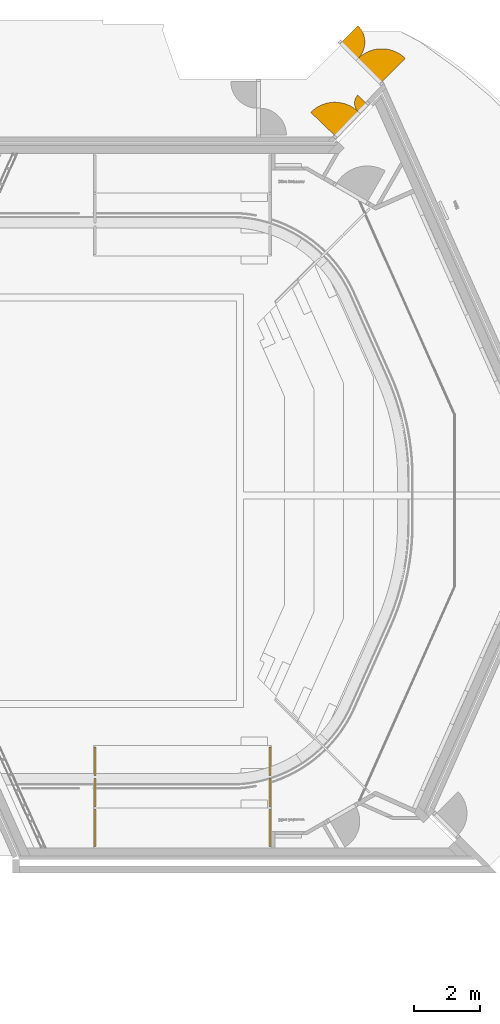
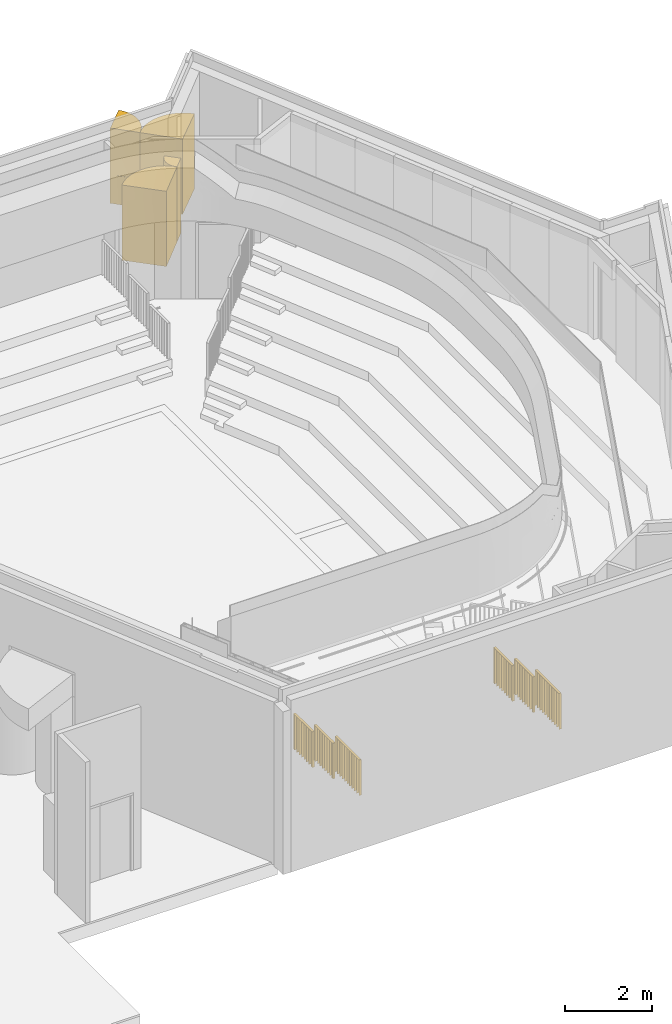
# One storey, part 14 of 19: 6 railings, 4 doors, 2 elements without a shape of their own.
"""IFC2X3 building model written with IfcOpenShell, lengths in millimetres."""

from ifc_helpers import new_model, entity, si_unit, converted_unit, derived_unit, direction, frame, frame_2d, origin, origin_2d_with_axis, place, context, subcontext, project, spatial, polyline, circle_curve, parameter, trimmed, segment, composite_curve, rectangle, outline, extrude, source, transform, mapped, material, material_list, type_object, type_shapes, element, aggregate, save


model = new_model("IFC2X3")

# Units and contexts
model_context = context("Model", 3, precision=0.01, world=origin(), true_north=direction((6.123031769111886e-17, 1.0)))
body_context = subcontext(model_context, "Body", "Model", "MODEL_VIEW")
ifc_project = project(units=[si_unit("LENGTHUNIT", "METRE", prefix="MILLI"), si_unit("AREAUNIT", "SQUARE_METRE"), si_unit("VOLUMEUNIT", "CUBIC_METRE"), converted_unit("PLANEANGLEUNIT", "DEGREE", entity("IfcRatioMeasure", 0.017453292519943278), si_unit("PLANEANGLEUNIT", "RADIAN"), dimensions=[0, 0, 0, 0, 0, 0, 0]), si_unit("MASSUNIT", "GRAM", prefix="KILO"), derived_unit("MASSDENSITYUNIT", [(si_unit("MASSUNIT", "GRAM", prefix="KILO"), 1), (si_unit("LENGTHUNIT", "METRE"), -3)]), derived_unit("MOMENTOFINERTIAUNIT", [(si_unit("LENGTHUNIT", "METRE"), 4)]), si_unit("TIMEUNIT", "SECOND"), si_unit("FREQUENCYUNIT", "HERTZ"), si_unit("THERMODYNAMICTEMPERATUREUNIT", "DEGREE_CELSIUS"), derived_unit("THERMALTRANSMITTANCEUNIT", [(si_unit("MASSUNIT", "GRAM", prefix="KILO"), 1), (si_unit("THERMODYNAMICTEMPERATUREUNIT", "KELVIN"), -1), (si_unit("TIMEUNIT", "SECOND"), -3)]), derived_unit("VOLUMETRICFLOWRATEUNIT", [(si_unit("LENGTHUNIT", "METRE"), 3), (si_unit("TIMEUNIT", "SECOND"), -1)]), derived_unit("MASSFLOWRATEUNIT", [(si_unit("MASSUNIT", "GRAM", prefix="KILO"), 1), (si_unit("TIMEUNIT", "SECOND"), -1)]), derived_unit("ROTATIONALFREQUENCYUNIT", [(si_unit("TIMEUNIT", "SECOND"), -1)]), si_unit("ELECTRICCURRENTUNIT", "AMPERE"), si_unit("ELECTRICVOLTAGEUNIT", "VOLT"), si_unit("POWERUNIT", "WATT"), si_unit("FORCEUNIT", "NEWTON", prefix="KILO"), si_unit("ILLUMINANCEUNIT", "LUX"), si_unit("LUMINOUSFLUXUNIT", "LUMEN"), si_unit("LUMINOUSINTENSITYUNIT", "CANDELA"), derived_unit("USERDEFINED", [(si_unit("MASSUNIT", "GRAM", prefix="KILO"), -1), (si_unit("LENGTHUNIT", "METRE"), -2), (si_unit("TIMEUNIT", "SECOND"), 3), (si_unit("LUMINOUSFLUXUNIT", "LUMEN"), 1)]), derived_unit("SOUNDPOWERUNIT", [(si_unit("MASSUNIT", "GRAM", prefix="KILO"), 1), (si_unit("LENGTHUNIT", "METRE"), 2), (si_unit("TIMEUNIT", "SECOND"), -3)]), derived_unit("SOUNDPRESSUREUNIT", [(si_unit("MASSUNIT", "GRAM", prefix="KILO"), 1), (si_unit("LENGTHUNIT", "METRE"), -1), (si_unit("TIMEUNIT", "SECOND"), -2)]), derived_unit("LINEARVELOCITYUNIT", [(si_unit("LENGTHUNIT", "METRE"), 1), (si_unit("TIMEUNIT", "SECOND"), -1)]), si_unit("PRESSUREUNIT", "PASCAL"), derived_unit("USERDEFINED", [(si_unit("LENGTHUNIT", "METRE"), -2), (si_unit("MASSUNIT", "GRAM", prefix="KILO"), 1), (si_unit("TIMEUNIT", "SECOND"), -2)]), derived_unit("LINEARFORCEUNIT", [(si_unit("MASSUNIT", "GRAM", prefix="KILO"), 1), (si_unit("LENGTHUNIT", "METRE"), 1), (si_unit("TIMEUNIT", "SECOND"), -2), (si_unit("LENGTHUNIT", "METRE"), -1)]), derived_unit("PLANARFORCEUNIT", [(si_unit("MASSUNIT", "GRAM", prefix="KILO"), 1), (si_unit("LENGTHUNIT", "METRE"), 1), (si_unit("TIMEUNIT", "SECOND"), -2), (si_unit("LENGTHUNIT", "METRE"), -2)])], contexts=[model_context])

# Site, building, storey
site_placement = place(None, frame((-10000.0, -10000.0, 0.0)))
site = spatial("IfcSite", under=ifc_project, at=site_placement, Name="Default", CompositionType="ELEMENT")
building_placement = place(site_placement, origin())
building = spatial("IfcBuilding", under=site, at=building_placement, CompositionType="ELEMENT")
storey_placement = place(building_placement, frame((0.0, 0.0, 4200.0)))
storey = spatial("IfcBuildingStorey", under=building, at=storey_placement, Name="01 1e verdieping", CompositionType="ELEMENT", Elevation=4200.000000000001)

# Curtain wall, doors
curtain_wall_type = type_object("IfcCurtainWallType", Name="Curtain Wall:NLRS_32_CWA_houten binnenkozijnen ts90_ags", PredefinedType="NOTDEFINED")
curtain_wall_1_placement = place(storey_placement, frame((0.0, 0.0, -4200.0)))
curtain_wall_1 = element("IfcCurtainWall", 1, at=curtain_wall_1_placement, inside=storey, type_object=curtain_wall_type, Name="Curtain Wall:NLRS_32_CWA_houten binnenkozijnen ts90_ags", ObjectType="Curtain Wall:NLRS_32_CWA_houten binnenkozijnen ts90_ags")
ifc_material_1 = material(Name="NLRS_a_clashvolume")
ifc_material_2 = material(Name="<Unnamed>")
ifc_material_list_1 = material_list([ifc_material_1, ifc_material_2])
ifc_material_list_2 = material_list([ifc_material_1, ifc_material_2])
door_style_1 = type_object("IfcDoorStyle", Name="NLRS_31_DO_houten deur_ags:deur dicht", ConstructionType="NOTDEFINED", OperationType="NOTDEFINED", ParameterTakesPrecedence=False, Sizeable=False, material=ifc_material_list_2)
shared_shape_1 = source(origin(), body_context, "Body", "SweptSolid", [
    extrude(outline(composite_curve([segment(polyline([(-675.3333333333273, -337.6666666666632), (337.6666666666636, -337.6666666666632)]), True, "CONTINUOUS"), segment(polyline([(337.6666666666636, -337.66666666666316), (337.6666666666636, 675.3333333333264)]), True, "CONTINUOUS"), segment(trimmed(circle_curve(frame_2d((337.6666666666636, -337.6666666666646), x_axis=(0.0, 1.0)), 1012.9999999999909), [parameter(0.0)], [parameter(89.99999999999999)], True, "PARAMETER"), True, "CONTINUOUS")], self_intersect=False)), frame((168.8333333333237, -370.1666666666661, 0.0), z_axis=(0.0, 0.0, 1.0), x_axis=(0.0, 1.0, 0.0)), (0.0, 0.0, 1.0), 2103.0),
    extrude(rectangle(XDim=1012.9999999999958, YDim=40.00000000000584, at=frame_2d((0.0, -1.7763568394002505e-15), x_axis=(1.0, 0.0))), frame((0.0, -12.499999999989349, 0.0)), (0.0, 0.0, 1.0), 2103.0),
])
type_shapes(door_style_1, [shared_shape_1])
door_1_placement = place(curtain_wall_1_placement, frame((39001.657990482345, 50038.5029729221, 4200.0), z_axis=(0.0, 0.0, 1.0), x_axis=(-0.6943722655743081, -0.7196159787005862, 0.0)))
door_1 = element("IfcDoor", 2, at=door_1_placement, type_object=door_style_1, material=ifc_material_list_1, Name="NLRS_31_DO_houten deur_ags:deur dicht", ObjectType="NLRS_31_DO_houten deur_ags:deur dicht", OverallHeight=2103.0000000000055, OverallWidth=1013.0000000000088, context=body_context, shape_type="MappedRepresentation", body=[
    mapped(shared_shape_1, transform((0.0, 0.0, 0.0), scale=1.0)),
])
ifc_material_list_3 = material_list([ifc_material_1, ifc_material_2])
ifc_material_list_4 = material_list([ifc_material_1, ifc_material_2])
door_style_2 = type_object("IfcDoorStyle", Name="NLRS_31_DO_houten deur_ags:deur dicht", ConstructionType="NOTDEFINED", OperationType="NOTDEFINED", ParameterTakesPrecedence=False, Sizeable=False, material=ifc_material_list_4)
shared_shape_2 = source(origin(), body_context, "Body", "SweptSolid", [
    extrude(outline(composite_curve([segment(trimmed(circle_curve(frame_2d((-117.5870046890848, 117.58700468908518), x_axis=(1.0, 0.0)), 352.76101406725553), [parameter(270.0)], [parameter(0.0)], True, "PARAMETER"), True, "CONTINUOUS"), segment(polyline([(235.17400937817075, 117.58700468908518), (-117.58700468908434, 117.58700468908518)]), True, "CONTINUOUS"), segment(polyline([(-117.58700468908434, 117.58700468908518), (-117.58700468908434, -235.17400937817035)]), True, "CONTINUOUS")], self_intersect=False)), frame((-58.79350234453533, -150.08700468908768, 0.0)), (0.0, 0.0, 1.0), 2103.0),
    extrude(rectangle(XDim=40.00000000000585, YDim=352.7610140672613, at=origin_2d_with_axis()), frame((0.0, -12.499999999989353, 0.0), z_axis=(0.0, 0.0, 1.0), x_axis=(0.0, 1.0, 0.0)), (0.0, 0.0, 1.0), 2103.0),
])
type_shapes(door_style_2, [shared_shape_2])
door_2_placement = place(curtain_wall_1_placement, frame((39475.83127526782, 50529.914697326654, 4200.0), z_axis=(0.0, 0.0, 1.0), x_axis=(-0.6943722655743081, -0.7196159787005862, 0.0)))
door_2 = element("IfcDoor", 3, at=door_2_placement, type_object=door_style_2, material=ifc_material_list_3, Name="NLRS_31_DO_houten deur_ags:deur dicht", ObjectType="NLRS_31_DO_houten deur_ags:deur dicht", OverallHeight=2103.000000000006, OverallWidth=352.7610140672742, context=body_context, shape_type="MappedRepresentation", body=[
    mapped(shared_shape_2, transform((0.0, 0.0, 0.0), scale=1.0)),
])
aggregate(curtain_wall_1, [door_1, door_2])

curtain_wall_2_placement = place(storey_placement, frame((0.0, 0.0, -4200.0)))
curtain_wall_2 = element("IfcCurtainWall", 4, at=curtain_wall_2_placement, inside=storey, type_object=curtain_wall_type, Name="Curtain Wall:NLRS_32_CWA_houten binnenkozijnen ts90_ags", ObjectType="Curtain Wall:NLRS_32_CWA_houten binnenkozijnen ts90_ags")
ifc_material_3 = material(Name="Glas")
ifc_material_list_5 = material_list([ifc_material_1, ifc_material_3, ifc_material_2])
ifc_material_list_6 = material_list([ifc_material_1, ifc_material_3, ifc_material_2])
door_style_3 = type_object("IfcDoorStyle", Name="NLRS_31_DO_houten deur_ags:deur met maximaal glas", ConstructionType="NOTDEFINED", OperationType="NOTDEFINED", ParameterTakesPrecedence=False, Sizeable=False, material=ifc_material_list_6)
shared_shape_3 = source(origin(), body_context, "Body", "SweptSolid", [
    extrude(outline(composite_curve([segment(polyline([(-468.66666666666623, -234.33333333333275), (234.3333333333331, -234.33333333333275)]), True, "CONTINUOUS"), segment(polyline([(234.3333333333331, -234.3333333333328), (234.3333333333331, 468.6666666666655)]), True, "CONTINUOUS"), segment(trimmed(circle_curve(frame_2d((234.3333333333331, -234.33333333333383), x_axis=(0.0, 1.0)), 702.9999999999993), [parameter(0.0)], [parameter(89.99999999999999)], True, "PARAMETER"), True, "CONTINUOUS")], self_intersect=False)), frame((117.1666666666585, -266.8333333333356, 0.0), z_axis=(0.0, 0.0, 1.0), x_axis=(0.0, 1.0, 0.0)), (0.0, 0.0, 1.0), 2103.0),
    extrude(rectangle(XDim=423.00000000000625, YDim=24.99999999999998, at=origin_2d_with_axis()), frame((0.0, -12.499999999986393, 800.0)), (0.0, 0.0, 1.0), 1163.0),
    extrude(outline(polyline([(-351.50000000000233, -1051.5), (351.50000000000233, -1051.5), (351.50000000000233, 1051.5), (-351.50000000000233, 1051.5), (-351.50000000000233, -1051.5)]), holes=[polyline([(-211.50000000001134, -911.4999999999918), (-211.50000000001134, 251.50000000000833), (211.49999999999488, 251.50000000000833), (211.49999999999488, -911.4999999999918), (-211.50000000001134, -911.4999999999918)])]), frame((0.0, 7.500000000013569, 1051.5), z_axis=(0.0, -1.0, 0.0), x_axis=(-1.0, 0.0, 0.0)), (0.0, 0.0, 1.0), 40.00000000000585),
])
type_shapes(door_style_3, [shared_shape_3])
door_3_placement = place(curtain_wall_2_placement, frame((39058.17540072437, 52257.95623616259, 4200.0), z_axis=(0.0, 0.0, 1.0), x_axis=(-0.7071067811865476, 0.7071067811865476, 0.0)))
door_3 = element("IfcDoor", 5, at=door_3_placement, type_object=door_style_3, material=ifc_material_list_5, Name="NLRS_31_DO_houten deur_ags:deur met maximaal glas", ObjectType="NLRS_31_DO_houten deur_ags:deur met maximaal glas", OverallHeight=2103.000000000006, OverallWidth=703.0000000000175, context=body_context, shape_type="MappedRepresentation", body=[
    mapped(shared_shape_3, transform((0.0, 0.0, 0.0), scale=1.0)),
])
ifc_material_list_7 = material_list([ifc_material_1, ifc_material_3, ifc_material_2])
ifc_material_list_8 = material_list([ifc_material_1, ifc_material_3, ifc_material_2])
door_style_4 = type_object("IfcDoorStyle", Name="NLRS_31_DO_houten deur_ags:deur met maximaal glas", ConstructionType="NOTDEFINED", OperationType="NOTDEFINED", ParameterTakesPrecedence=False, Sizeable=False, material=ifc_material_list_8)
shared_shape_4 = source(origin(), body_context, "Body", "SweptSolid", [
    extrude(outline(composite_curve([segment(trimmed(circle_curve(frame_2d((-337.6666666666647, 337.6666666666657), x_axis=(1.0, 0.0)), 1012.9999999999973), [parameter(270.0)], [parameter(0.0)], True, "PARAMETER"), True, "CONTINUOUS"), segment(polyline([(675.3333333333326, 337.6666666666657), (-337.6666666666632, 337.6666666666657)]), True, "CONTINUOUS"), segment(polyline([(-337.6666666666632, 337.6666666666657), (-337.6666666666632, -675.3333333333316)]), True, "CONTINUOUS")], self_intersect=False)), frame((-168.83333333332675, -370.1666666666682, 0.0)), (0.0, 0.0, 1.0), 2103.0),
    extrude(rectangle(XDim=24.99999999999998, YDim=733.0000000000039, at=frame_2d((8.881784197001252e-16, -2.842170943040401e-14), x_axis=(1.0, 0.0))), frame((0.0, -12.499999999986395, 800.0), z_axis=(0.0, 0.0, 1.0), x_axis=(0.0, 1.0, 0.0)), (0.0, 0.0, 1.0), 1163.0),
    extrude(outline(polyline([(-506.5000000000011, -1051.5), (506.5000000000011, -1051.5), (506.5000000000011, 1051.5), (-506.5000000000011, 1051.5), (-506.5000000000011, -1051.5)]), holes=[polyline([(-366.5000000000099, 251.50000000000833), (366.49999999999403, 251.50000000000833), (366.49999999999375, -911.4999999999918), (-366.50000000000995, -911.4999999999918), (-366.5000000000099, 251.50000000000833)])]), frame((0.0, -32.499999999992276, 1051.5), z_axis=(0.0, 1.0, 0.0), x_axis=(1.0, 0.0, 0.0)), (0.0, 0.0, 1.0), 40.00000000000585),
])
type_shapes(door_style_4, [shared_shape_4])
door_4_placement = place(curtain_wall_2_placement, frame((39664.87301898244, 51651.25861790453, 4200.0), z_axis=(0.0, 0.0, 1.0), x_axis=(-0.7071067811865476, 0.7071067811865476, 0.0)))
door_4 = element("IfcDoor", 6, at=door_4_placement, type_object=door_style_4, material=ifc_material_list_7, Name="NLRS_31_DO_houten deur_ags:deur met maximaal glas", ObjectType="NLRS_31_DO_houten deur_ags:deur met maximaal glas", OverallHeight=2103.000000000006, OverallWidth=1013.000000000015, context=body_context, shape_type="MappedRepresentation", body=[
    mapped(shared_shape_4, transform((0.0, 0.0, 0.0), scale=1.0)),
])
aggregate(curtain_wall_2, [door_3, door_4])

# Railings
ifc_material_4 = material(Name="Default Metal")
ifc_material_list_9 = material_list([ifc_material_4, ifc_material_4, ifc_material_4, ifc_material_4, ifc_material_4, ifc_material_4, ifc_material_4, ifc_material_4, ifc_material_4, ifc_material_4, ifc_material_4])
railing_1_placement = place(storey_placement, origin())
element("IfcRailing", 7, at=railing_1_placement, inside=storey, material=ifc_material_list_9, Name="Railing:NLRS_34_RAI_spijlenhekwerk hoofdtribune", ObjectType="Railing:NLRS_34_RAI_spijlenhekwerk hoofdtribune", PredefinedType="NOTDEFINED", context=body_context, shape_type="SweptSolid", body=[
    extrude(rectangle(XDim=10.000000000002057, YDim=59.99999999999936, at=origin_2d_with_axis()), frame((36655.0, 30365.0, 285.0), z_axis=(0.0, 0.0, 1.0), x_axis=(0.0, -1.0, 0.0)), (0.0, 0.0, 1.0), 989.9999999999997),
    extrude(rectangle(XDim=10.000000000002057, YDim=59.99999999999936, at=origin_2d_with_axis()), frame((36655.0, 30475.0, 285.0), z_axis=(0.0, 0.0, 1.0), x_axis=(0.0, -1.0, 0.0)), (0.0, 0.0, 1.0), 989.9999999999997),
    extrude(rectangle(XDim=10.000000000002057, YDim=59.99999999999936, at=origin_2d_with_axis()), frame((36655.0, 30585.0, 285.0), z_axis=(0.0, 0.0, 1.0), x_axis=(0.0, -1.0, 0.0)), (0.0, 0.0, 1.0), 989.9999999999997),
    extrude(rectangle(XDim=10.000000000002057, YDim=59.99999999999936, at=origin_2d_with_axis()), frame((36655.0, 30695.0, 285.0), z_axis=(0.0, 0.0, 1.0), x_axis=(0.0, -1.0, 0.0)), (0.0, 0.0, 1.0), 989.9999999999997),
    extrude(rectangle(XDim=10.000000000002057, YDim=59.99999999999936, at=origin_2d_with_axis()), frame((36655.0, 30805.0, 285.0), z_axis=(0.0, 0.0, 1.0), x_axis=(0.0, -1.0, 0.0)), (0.0, 0.0, 1.0), 989.9999999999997),
    extrude(rectangle(XDim=10.000000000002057, YDim=59.99999999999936, at=origin_2d_with_axis()), frame((36655.0, 30915.0, 285.0), z_axis=(0.0, 0.0, 1.0), x_axis=(0.0, -1.0, 0.0)), (0.0, 0.0, 1.0), 989.9999999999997),
    extrude(rectangle(XDim=10.000000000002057, YDim=59.99999999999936, at=origin_2d_with_axis()), frame((36655.0, 31025.0, 285.0), z_axis=(0.0, 0.0, 1.0), x_axis=(0.0, -1.0, 0.0)), (0.0, 0.0, 1.0), 989.9999999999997),
    extrude(rectangle(XDim=10.000000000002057, YDim=59.99999999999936, at=origin_2d_with_axis()), frame((36655.0, 31135.0, 285.0), z_axis=(0.0, 0.0, 1.0), x_axis=(0.0, -1.0, 0.0)), (0.0, 0.0, 1.0), 989.9999999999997),
    extrude(rectangle(XDim=10.000000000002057, YDim=59.99999999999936, at=origin_2d_with_axis()), frame((36655.0, 30325.0, 285.0), z_axis=(0.0, 0.0, 1.0), x_axis=(0.0, -1.0, 0.0)), (0.0, 0.0, 1.0), 989.9999999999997),
    extrude(rectangle(XDim=10.000000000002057, YDim=59.99999999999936, at=origin_2d_with_axis()), frame((36655.0, 31175.0, 285.0), z_axis=(0.0, 0.0, 1.0), x_axis=(0.0, -1.0, 0.0)), (0.0, 0.0, 1.0), 989.9999999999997),
    extrude(rectangle(XDim=849.9999999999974, YDim=59.99999999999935, at=origin_2d_with_axis()), frame((36655.0, 30750.0, 1275.0), z_axis=(0.0, 0.0, 1.0), x_axis=(0.0, -1.0, 0.0)), (0.0, 0.0, 1.0), 9.999999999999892),
])
ifc_material_list_10 = material_list([ifc_material_4, ifc_material_4, ifc_material_4, ifc_material_4, ifc_material_4, ifc_material_4, ifc_material_4, ifc_material_4, ifc_material_4, ifc_material_4, ifc_material_4])
railing_2_placement = place(storey_placement, origin())
element("IfcRailing", 8, at=railing_2_placement, inside=storey, material=ifc_material_list_10, Name="Railing:NLRS_34_RAI_spijlenhekwerk hoofdtribune", ObjectType="Railing:NLRS_34_RAI_spijlenhekwerk hoofdtribune", PredefinedType="NOTDEFINED", context=body_context, shape_type="SweptSolid", body=[
    extrude(rectangle(XDim=60.00000000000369, YDim=9.999999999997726, at=origin_2d_with_axis()), frame((36655.0, 30185.0, 545.0)), (0.0, 0.0, 1.0), 989.9999999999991),
    extrude(rectangle(XDim=60.00000000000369, YDim=9.999999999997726, at=origin_2d_with_axis()), frame((36655.0, 30075.0, 545.0)), (0.0, 0.0, 1.0), 989.9999999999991),
    extrude(rectangle(XDim=60.00000000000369, YDim=9.999999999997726, at=frame_2d((0.0, 4.331646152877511e-12), x_axis=(1.0, 0.0))), frame((36655.0, 29965.0, 545.0)), (0.0, 0.0, 1.0), 989.9999999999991),
    extrude(rectangle(XDim=60.00000000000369, YDim=9.999999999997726, at=origin_2d_with_axis()), frame((36655.0, 29855.0, 545.0)), (0.0, 0.0, 1.0), 989.9999999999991),
    extrude(rectangle(XDim=60.00000000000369, YDim=9.999999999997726, at=frame_2d((0.0, 4.331646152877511e-12), x_axis=(1.0, 0.0))), frame((36655.0, 29745.0, 545.0)), (0.0, 0.0, 1.0), 989.9999999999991),
    extrude(rectangle(XDim=60.00000000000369, YDim=9.999999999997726, at=origin_2d_with_axis()), frame((36655.0, 29635.0, 545.0)), (0.0, 0.0, 1.0), 989.9999999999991),
    extrude(rectangle(XDim=60.00000000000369, YDim=9.999999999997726, at=frame_2d((0.0, -4.331646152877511e-12), x_axis=(1.0, 0.0))), frame((36655.0, 29525.0, 545.0)), (0.0, 0.0, 1.0), 989.9999999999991),
    extrude(rectangle(XDim=60.00000000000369, YDim=9.999999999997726, at=origin_2d_with_axis()), frame((36655.0, 29415.0, 545.0)), (0.0, 0.0, 1.0), 989.9999999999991),
    extrude(rectangle(XDim=60.00000000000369, YDim=9.999999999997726, at=origin_2d_with_axis()), frame((36655.0, 30225.0, 545.0)), (0.0, 0.0, 1.0), 989.9999999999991),
    extrude(rectangle(XDim=60.00000000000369, YDim=9.999999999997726, at=frame_2d((0.0, -4.331646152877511e-12), x_axis=(1.0, 0.0))), frame((36655.0, 29375.0, 545.0)), (0.0, 0.0, 1.0), 989.9999999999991),
    extrude(rectangle(XDim=849.9999999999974, YDim=59.99999999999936, at=frame_2d((0.0, 2.1653789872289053e-12), x_axis=(1.0, 0.0))), frame((36655.0, 29800.0, 1535.0), z_axis=(0.0, 0.0, 1.0), x_axis=(0.0, 1.0, 0.0)), (0.0, 0.0, 1.0), 9.999999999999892),
])
ifc_material_list_11 = material_list([ifc_material_4, ifc_material_4, ifc_material_4, ifc_material_4, ifc_material_4, ifc_material_4, ifc_material_4, ifc_material_4, ifc_material_4, ifc_material_4, ifc_material_4])
railing_3_placement = place(storey_placement, origin())
element("IfcRailing", 9, at=railing_3_placement, inside=storey, material=ifc_material_list_11, Name="Railing:NLRS_34_RAI_spijlenhekwerk hoofdtribune", ObjectType="Railing:NLRS_34_RAI_spijlenhekwerk hoofdtribune", PredefinedType="NOTDEFINED", context=body_context, shape_type="SweptSolid", body=[
    extrude(rectangle(XDim=60.00000000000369, YDim=9.999999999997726, at=frame_2d((0.0, 4.331646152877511e-12), x_axis=(1.0, 0.0))), frame((31365.0, 30365.0, 285.0), z_axis=(0.0, 0.0, 1.0), x_axis=(-1.0, 0.0, 0.0)), (0.0, 0.0, 1.0), 989.9999999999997),
    extrude(rectangle(XDim=60.00000000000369, YDim=9.999999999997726, at=origin_2d_with_axis()), frame((31365.0, 30475.0, 285.0), z_axis=(0.0, 0.0, 1.0), x_axis=(-1.0, 0.0, 0.0)), (0.0, 0.0, 1.0), 989.9999999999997),
    extrude(rectangle(XDim=60.00000000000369, YDim=9.999999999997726, at=origin_2d_with_axis()), frame((31365.0, 30585.0, 285.0), z_axis=(0.0, 0.0, 1.0), x_axis=(-1.0, 0.0, 0.0)), (0.0, 0.0, 1.0), 989.9999999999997),
    extrude(rectangle(XDim=60.00000000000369, YDim=9.999999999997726, at=origin_2d_with_axis()), frame((31365.0, 30695.0, 285.0), z_axis=(0.0, 0.0, 1.0), x_axis=(-1.0, 0.0, 0.0)), (0.0, 0.0, 1.0), 989.9999999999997),
    extrude(rectangle(XDim=60.00000000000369, YDim=9.999999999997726, at=frame_2d((0.0, -4.331646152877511e-12), x_axis=(1.0, 0.0))), frame((31365.0, 30805.0, 285.0), z_axis=(0.0, 0.0, 1.0), x_axis=(-1.0, 0.0, 0.0)), (0.0, 0.0, 1.0), 989.9999999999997),
    extrude(rectangle(XDim=60.00000000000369, YDim=9.999999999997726, at=origin_2d_with_axis()), frame((31365.0, 30915.0, 285.0), z_axis=(0.0, 0.0, 1.0), x_axis=(-1.0, 0.0, 0.0)), (0.0, 0.0, 1.0), 989.9999999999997),
    extrude(rectangle(XDim=60.00000000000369, YDim=9.999999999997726, at=origin_2d_with_axis()), frame((31365.0, 31025.0, 285.0), z_axis=(0.0, 0.0, 1.0), x_axis=(-1.0, 0.0, 0.0)), (0.0, 0.0, 1.0), 989.9999999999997),
    extrude(rectangle(XDim=60.00000000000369, YDim=9.999999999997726, at=frame_2d((0.0, 4.331646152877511e-12), x_axis=(1.0, 0.0))), frame((31365.0, 31135.0, 285.0), z_axis=(0.0, 0.0, 1.0), x_axis=(-1.0, 0.0, 0.0)), (0.0, 0.0, 1.0), 989.9999999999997),
    extrude(rectangle(XDim=60.00000000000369, YDim=9.999999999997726, at=origin_2d_with_axis()), frame((31365.0, 30325.0, 285.0), z_axis=(0.0, 0.0, 1.0), x_axis=(-1.0, 0.0, 0.0)), (0.0, 0.0, 1.0), 989.9999999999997),
    extrude(rectangle(XDim=60.00000000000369, YDim=9.999999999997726, at=origin_2d_with_axis()), frame((31365.0, 31175.0, 285.0), z_axis=(0.0, 0.0, 1.0), x_axis=(-1.0, 0.0, 0.0)), (0.0, 0.0, 1.0), 989.9999999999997),
    extrude(rectangle(XDim=849.9999999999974, YDim=59.99999999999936, at=frame_2d((0.0, 2.1653789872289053e-12), x_axis=(1.0, 0.0))), frame((31365.0, 30750.0, 1275.0), z_axis=(0.0, 0.0, 1.0), x_axis=(0.0, -1.0, 0.0)), (0.0, 0.0, 1.0), 9.999999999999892),
])
ifc_material_list_12 = material_list([ifc_material_4, ifc_material_4, ifc_material_4, ifc_material_4, ifc_material_4, ifc_material_4, ifc_material_4, ifc_material_4, ifc_material_4, ifc_material_4, ifc_material_4])
railing_4_placement = place(storey_placement, origin())
element("IfcRailing", 10, at=railing_4_placement, inside=storey, material=ifc_material_list_12, Name="Railing:NLRS_34_RAI_spijlenhekwerk hoofdtribune", ObjectType="Railing:NLRS_34_RAI_spijlenhekwerk hoofdtribune", PredefinedType="NOTDEFINED", context=body_context, shape_type="SweptSolid", body=[
    extrude(rectangle(XDim=10.000000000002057, YDim=59.99999999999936, at=origin_2d_with_axis()), frame((31365.0, 30185.0, 545.0), z_axis=(0.0, 0.0, 1.0), x_axis=(0.0, 1.0, 0.0)), (0.0, 0.0, 1.0), 989.9999999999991),
    extrude(rectangle(XDim=10.000000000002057, YDim=59.99999999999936, at=origin_2d_with_axis()), frame((31365.0, 30075.0, 545.0), z_axis=(0.0, 0.0, 1.0), x_axis=(0.0, 1.0, 0.0)), (0.0, 0.0, 1.0), 989.9999999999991),
    extrude(rectangle(XDim=10.000000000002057, YDim=59.99999999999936, at=origin_2d_with_axis()), frame((31365.0, 29965.0, 545.0), z_axis=(0.0, 0.0, 1.0), x_axis=(0.0, 1.0, 0.0)), (0.0, 0.0, 1.0), 989.9999999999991),
    extrude(rectangle(XDim=10.000000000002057, YDim=59.99999999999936, at=origin_2d_with_axis()), frame((31365.0, 29855.0, 545.0), z_axis=(0.0, 0.0, 1.0), x_axis=(0.0, 1.0, 0.0)), (0.0, 0.0, 1.0), 989.9999999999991),
    extrude(rectangle(XDim=10.000000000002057, YDim=59.99999999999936, at=origin_2d_with_axis()), frame((31365.0, 29745.0, 545.0), z_axis=(0.0, 0.0, 1.0), x_axis=(0.0, 1.0, 0.0)), (0.0, 0.0, 1.0), 989.9999999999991),
    extrude(rectangle(XDim=10.000000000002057, YDim=59.99999999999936, at=origin_2d_with_axis()), frame((31365.0, 29635.0, 545.0), z_axis=(0.0, 0.0, 1.0), x_axis=(0.0, 1.0, 0.0)), (0.0, 0.0, 1.0), 989.9999999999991),
    extrude(rectangle(XDim=10.000000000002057, YDim=59.99999999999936, at=origin_2d_with_axis()), frame((31365.0, 29525.0, 545.0), z_axis=(0.0, 0.0, 1.0), x_axis=(0.0, 1.0, 0.0)), (0.0, 0.0, 1.0), 989.9999999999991),
    extrude(rectangle(XDim=10.000000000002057, YDim=59.99999999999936, at=origin_2d_with_axis()), frame((31365.0, 29415.0, 545.0), z_axis=(0.0, 0.0, 1.0), x_axis=(0.0, 1.0, 0.0)), (0.0, 0.0, 1.0), 989.9999999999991),
    extrude(rectangle(XDim=10.000000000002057, YDim=59.99999999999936, at=origin_2d_with_axis()), frame((31365.0, 30225.0, 545.0), z_axis=(0.0, 0.0, 1.0), x_axis=(0.0, 1.0, 0.0)), (0.0, 0.0, 1.0), 989.9999999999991),
    extrude(rectangle(XDim=10.000000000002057, YDim=59.99999999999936, at=origin_2d_with_axis()), frame((31365.0, 29375.0, 545.0), z_axis=(0.0, 0.0, 1.0), x_axis=(0.0, 1.0, 0.0)), (0.0, 0.0, 1.0), 989.9999999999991),
    extrude(rectangle(XDim=849.9999999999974, YDim=59.99999999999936, at=frame_2d((0.0, -2.1653789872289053e-12), x_axis=(1.0, 0.0))), frame((31365.0, 29800.0, 1535.0), z_axis=(0.0, 0.0, 1.0), x_axis=(0.0, 1.0, 0.0)), (0.0, 0.0, 1.0), 9.999999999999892),
])
ifc_material_list_13 = material_list([ifc_material_4, ifc_material_4, ifc_material_4, ifc_material_4, ifc_material_4, ifc_material_4, ifc_material_4, ifc_material_4, ifc_material_4, ifc_material_4, ifc_material_4, ifc_material_4])
railing_5_placement = place(storey_placement, origin())
element("IfcRailing", 11, at=railing_5_placement, inside=storey, material=ifc_material_list_13, Name="Railing:NLRS_34_RAI_spijlenhekwerk hoofdtribune", ObjectType="Railing:NLRS_34_RAI_spijlenhekwerk hoofdtribune", PredefinedType="NOTDEFINED", context=body_context, shape_type="SweptSolid", body=[
    extrude(rectangle(XDim=10.000000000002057, YDim=59.99999999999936, at=origin_2d_with_axis()), frame((31365.0, 29165.0, 805.0), z_axis=(0.0, 0.0, 1.0), x_axis=(0.0, 1.0, 0.0)), (0.0, 0.0, 1.0), 989.9999999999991),
    extrude(rectangle(XDim=10.000000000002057, YDim=59.99999999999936, at=origin_2d_with_axis()), frame((31365.0, 29055.0, 805.0), z_axis=(0.0, 0.0, 1.0), x_axis=(0.0, 1.0, 0.0)), (0.0, 0.0, 1.0), 989.9999999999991),
    extrude(rectangle(XDim=10.000000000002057, YDim=59.99999999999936, at=origin_2d_with_axis()), frame((31365.0, 28945.0, 805.0), z_axis=(0.0, 0.0, 1.0), x_axis=(0.0, 1.0, 0.0)), (0.0, 0.0, 1.0), 989.9999999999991),
    extrude(rectangle(XDim=10.000000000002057, YDim=59.99999999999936, at=origin_2d_with_axis()), frame((31365.0, 28835.0, 805.0), z_axis=(0.0, 0.0, 1.0), x_axis=(0.0, 1.0, 0.0)), (0.0, 0.0, 1.0), 989.9999999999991),
    extrude(rectangle(XDim=10.000000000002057, YDim=59.99999999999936, at=origin_2d_with_axis()), frame((31365.0, 28725.0, 805.0), z_axis=(0.0, 0.0, 1.0), x_axis=(0.0, 1.0, 0.0)), (0.0, 0.0, 1.0), 989.9999999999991),
    extrude(rectangle(XDim=10.000000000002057, YDim=59.99999999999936, at=origin_2d_with_axis()), frame((31365.0, 28615.0, 805.0), z_axis=(0.0, 0.0, 1.0), x_axis=(0.0, 1.0, 0.0)), (0.0, 0.0, 1.0), 989.9999999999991),
    extrude(rectangle(XDim=10.000000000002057, YDim=59.99999999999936, at=origin_2d_with_axis()), frame((31365.0, 28505.0, 805.0), z_axis=(0.0, 0.0, 1.0), x_axis=(0.0, 1.0, 0.0)), (0.0, 0.0, 1.0), 989.9999999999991),
    extrude(rectangle(XDim=10.000000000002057, YDim=59.99999999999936, at=origin_2d_with_axis()), frame((31365.0, 28395.0, 805.0), z_axis=(0.0, 0.0, 1.0), x_axis=(0.0, 1.0, 0.0)), (0.0, 0.0, 1.0), 989.9999999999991),
    extrude(rectangle(XDim=10.000000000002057, YDim=59.99999999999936, at=origin_2d_with_axis()), frame((31365.0, 28285.0, 805.0), z_axis=(0.0, 0.0, 1.0), x_axis=(0.0, 1.0, 0.0)), (0.0, 0.0, 1.0), 989.9999999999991),
    extrude(rectangle(XDim=10.000000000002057, YDim=59.99999999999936, at=origin_2d_with_axis()), frame((31365.0, 29275.0, 805.0), z_axis=(0.0, 0.0, 1.0), x_axis=(0.0, 1.0, 0.0)), (0.0, 0.0, 1.0), 989.9999999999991),
    extrude(rectangle(XDim=10.000000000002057, YDim=59.99999999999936, at=origin_2d_with_axis()), frame((31365.0, 28175.0, 805.0), z_axis=(0.0, 0.0, 1.0), x_axis=(0.0, 1.0, 0.0)), (0.0, 0.0, 1.0), 989.9999999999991),
    extrude(rectangle(XDim=1100.0000000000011, YDim=59.99999999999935, at=frame_2d((0.0, 4.330757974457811e-12), x_axis=(1.0, 0.0))), frame((31365.0, 28725.0, 1795.0), z_axis=(0.0, 0.0, 1.0), x_axis=(0.0, 1.0, 0.0)), (0.0, 0.0, 1.0), 9.999999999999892),
])
ifc_material_list_14 = material_list([ifc_material_4, ifc_material_4, ifc_material_4, ifc_material_4, ifc_material_4, ifc_material_4, ifc_material_4, ifc_material_4, ifc_material_4, ifc_material_4, ifc_material_4, ifc_material_4])
railing_6_placement = place(storey_placement, origin())
element("IfcRailing", 12, at=railing_6_placement, inside=storey, material=ifc_material_list_14, Name="Railing:NLRS_34_RAI_spijlenhekwerk hoofdtribune", ObjectType="Railing:NLRS_34_RAI_spijlenhekwerk hoofdtribune", PredefinedType="NOTDEFINED", context=body_context, shape_type="SweptSolid", body=[
    extrude(rectangle(XDim=60.00000000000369, YDim=9.999999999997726, at=origin_2d_with_axis()), frame((36655.0, 29165.0, 805.0)), (0.0, 0.0, 1.0), 989.9999999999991),
    extrude(rectangle(XDim=60.00000000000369, YDim=9.999999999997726, at=origin_2d_with_axis()), frame((36655.0, 29055.0, 805.0)), (0.0, 0.0, 1.0), 989.9999999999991),
    extrude(rectangle(XDim=60.00000000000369, YDim=9.999999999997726, at=origin_2d_with_axis()), frame((36655.0, 28945.0, 805.0)), (0.0, 0.0, 1.0), 989.9999999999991),
    extrude(rectangle(XDim=60.00000000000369, YDim=9.999999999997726, at=frame_2d((0.0, 4.331646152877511e-12), x_axis=(1.0, 0.0))), frame((36655.0, 28835.0, 805.0)), (0.0, 0.0, 1.0), 989.9999999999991),
    extrude(rectangle(XDim=60.00000000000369, YDim=9.999999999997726, at=origin_2d_with_axis()), frame((36655.0, 28725.0, 805.0)), (0.0, 0.0, 1.0), 989.9999999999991),
    extrude(rectangle(XDim=60.00000000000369, YDim=9.999999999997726, at=frame_2d((0.0, 4.331646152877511e-12), x_axis=(1.0, 0.0))), frame((36655.0, 28615.0, 805.0)), (0.0, 0.0, 1.0), 989.9999999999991),
    extrude(rectangle(XDim=60.00000000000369, YDim=9.999999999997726, at=frame_2d((-4.330757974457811e-12, 0.0), x_axis=(1.0, 0.0))), frame((36655.0, 28505.0, 805.0)), (0.0, 0.0, 1.0), 989.9999999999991),
    extrude(rectangle(XDim=60.00000000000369, YDim=9.999999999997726, at=frame_2d((-4.330757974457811e-12, 0.0), x_axis=(1.0, 0.0))), frame((36655.0, 28395.0, 805.0)), (0.0, 0.0, 1.0), 989.9999999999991),
    extrude(rectangle(XDim=60.00000000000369, YDim=9.999999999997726, at=frame_2d((-4.330757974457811e-12, 0.0), x_axis=(1.0, 0.0))), frame((36655.0, 28285.0, 805.0)), (0.0, 0.0, 1.0), 989.9999999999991),
    extrude(rectangle(XDim=60.00000000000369, YDim=9.999999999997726, at=origin_2d_with_axis()), frame((36655.0, 29275.0, 805.0)), (0.0, 0.0, 1.0), 989.9999999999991),
    extrude(rectangle(XDim=60.00000000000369, YDim=9.999999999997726, at=frame_2d((-4.330757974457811e-12, -4.331646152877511e-12), x_axis=(1.0, 0.0))), frame((36655.0, 28175.0, 805.0)), (0.0, 0.0, 1.0), 989.9999999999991),
    extrude(rectangle(XDim=1100.0000000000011, YDim=59.99999999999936, at=frame_2d((-4.320099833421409e-12, -2.1653789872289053e-12), x_axis=(1.0, 0.0))), frame((36655.0, 28725.0, 1795.0), z_axis=(0.0, 0.0, 1.0), x_axis=(0.0, 1.0, 0.0)), (0.0, 0.0, 1.0), 9.999999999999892),
])

save(model, "model.ifc")
